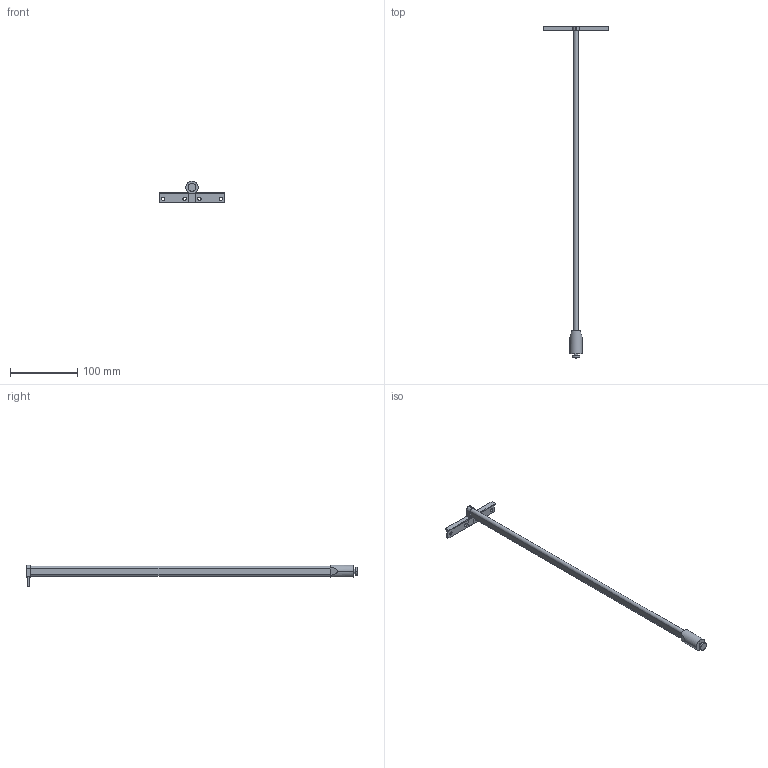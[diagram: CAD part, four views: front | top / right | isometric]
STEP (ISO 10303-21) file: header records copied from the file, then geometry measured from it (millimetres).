
FILE_DESCRIPTION (( 'STEP AP214' ), '1' );
FILE_NAME ('DWD-XP_Reling-Haengeregister_NL500_links.step', '2010-10-06T11:19:42', ( 'grass' ), ( '' ), 'SwSTEP 2.0', 'SolidWorks 2010', '' );
FILE_SCHEMA (( 'AUTOMOTIVE_DESIGN' ));
Length unit declared in the file: millimetre
Products named in the file (1): DWD-XP_Reling-Haengeregister_NL500_links
Bounding box: 97.9 x 494.3 x 32.15 mm (x, y, z)
Volume: 110646.9 mm3; surface area: 45266.9 mm2
Topology: 2 solids, 2 shells, 68 faces, 168 edges, 112 vertices
Faces by surface type: plane 40, cylinder 28
Entity records: 2087 total; most frequent: CARTESIAN_POINT 373, DIRECTION 354, ORIENTED_EDGE 336, EDGE_CURVE 168, AXIS2_PLACEMENT_3D 125, VERTEX_POINT 112, VECTOR 104, LINE 104
